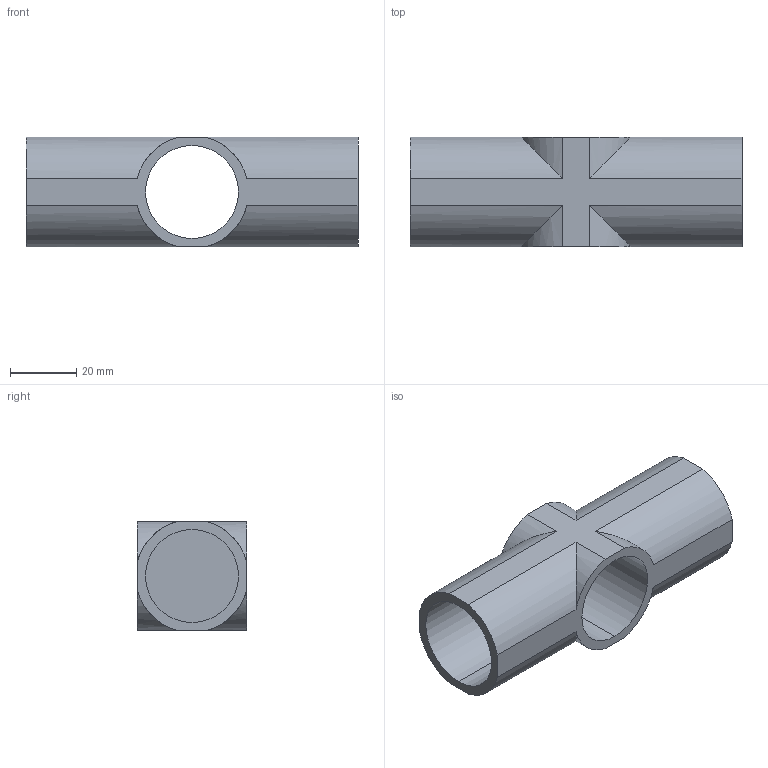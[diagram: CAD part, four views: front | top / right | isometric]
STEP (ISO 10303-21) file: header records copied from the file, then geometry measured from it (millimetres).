
FILE_DESCRIPTION (( 'STEP AP214' ), '1' );
FILE_NAME ('PJ-206B.STEP', '2023-09-12T11:04:01', ( 'catia' ), ( 'HP Inc.' ), 'SwSTEP 2.0', 'SolidWorks 2021', '' );
FILE_SCHEMA (( 'AUTOMOTIVE_DESIGN' ));
Length unit declared in the file: millimetre
Products named in the file (1): PJ-206B
Bounding box: 100 x 33 x 33 mm (x, y, z)
Volume: 36229.2 mm3; surface area: 20110.9 mm2
Topology: 1 solids, 1 shells, 30 faces, 78 edges, 52 vertices
Faces by surface type: cylinder 22, plane 8
Entity records: 968 total; most frequent: CARTESIAN_POINT 185, DIRECTION 160, ORIENTED_EDGE 156, EDGE_CURVE 78, AXIS2_PLACEMENT_3D 59, VERTEX_POINT 52, VECTOR 42, LINE 42
